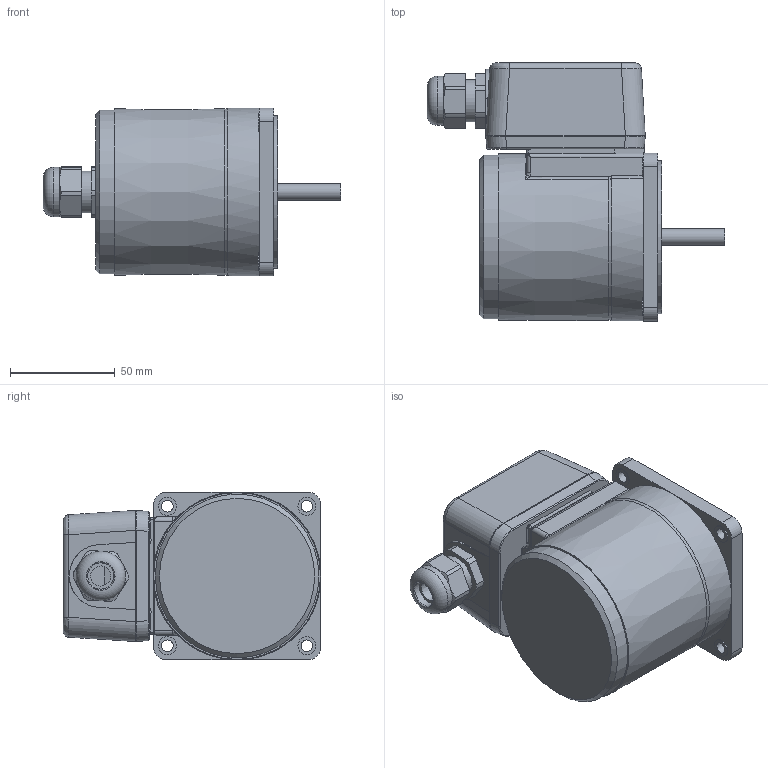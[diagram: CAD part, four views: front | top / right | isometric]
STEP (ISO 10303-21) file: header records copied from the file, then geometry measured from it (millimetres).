
FILE_DESCRIPTION((''),'2;1');
FILE_NAME('D:\STP파일\25W MOTOR\T BOX TYPE\S8I15S-T.stp','2013-05-20T16:45:34',('leebh'),(''),'Autodesk Inventor 2011','Autodesk Inventor 2011','');
FILE_SCHEMA(('AUTOMOTIVE_DESIGN { 1 0 10303 214 1 1 1 1 }'));
Length unit declared in the file: millimetre
Products named in the file (1): 부품3
Bounding box: 142 x 123 x 80 mm (x, y, z)
Volume: 631404.9 mm3; surface area: 59148.7 mm2
Topology: 1 solids, 9 shells, 364 faces, 895 edges, 569 vertices
Faces by surface type: plane 188, cylinder 108, bspline 46, torus 18, cone 4
Full cylindrical faces by diameter (mm): 2.55 x2, 5.5 x4, 5.6 x4, 6.3 x4, 8 x1, 8.5 x4, 12.5 x1, 15 x1, 20 x2, 21 x1, 23.6 x1, 34 x1, 73 x1, 78 x1
Entity records: 12385 total; most frequent: CARTESIAN_POINT 3883, ORIENTED_EDGE 1666, DIRECTION 1623, EDGE_CURVE 833, AXIS2_PLACEMENT_3D 584, VERTEX_POINT 557, VECTOR 455, LINE 455
